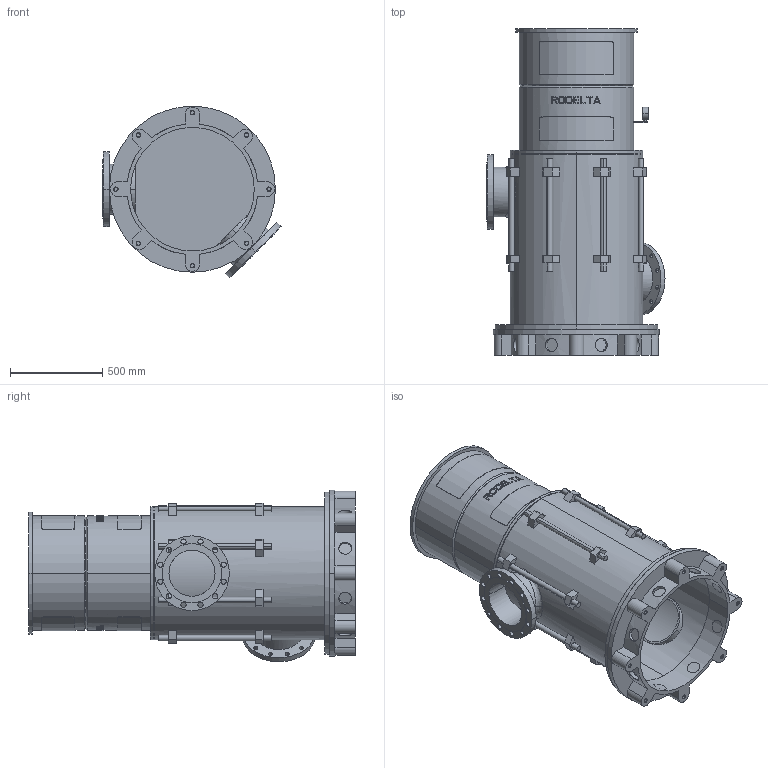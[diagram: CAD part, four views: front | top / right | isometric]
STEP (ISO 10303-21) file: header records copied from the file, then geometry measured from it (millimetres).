
FILE_DESCRIPTION((''),'2;1');
FILE_NAME('LS10_1TR_0GR_PN16','2025-10-24T13:37:31',('Lyritlocal'),(''),'CREO PARAMETRIC BY PTC INC, 2022014','CREO PARAMETRIC BY PTC INC, 2022014','');
FILE_SCHEMA(('CONFIG_CONTROL_DESIGN'));
Length unit declared in the file: millimetre
Products named in the file (1): LS10_1TR_0GR_PN16
Bounding box: 965.48 x 1770 x 930.48 mm (x, y, z)
Volume: 82960048.6 mm3; surface area: 11035599.1 mm2
Topology: 3 solids, 11 shells, 752 faces, 1934 edges, 1288 vertices
Faces by surface type: plane 462, cylinder 274, cone 12, bspline 4
Entity records: 24366 total; most frequent: CARTESIAN_POINT 6020, ORIENTED_EDGE 3836, DIRECTION 3662, EDGE_CURVE 1934, AXIS2_PLACEMENT_3D 1381, VERTEX_POINT 1288, EDGE_LOOP 924, VECTOR 900
